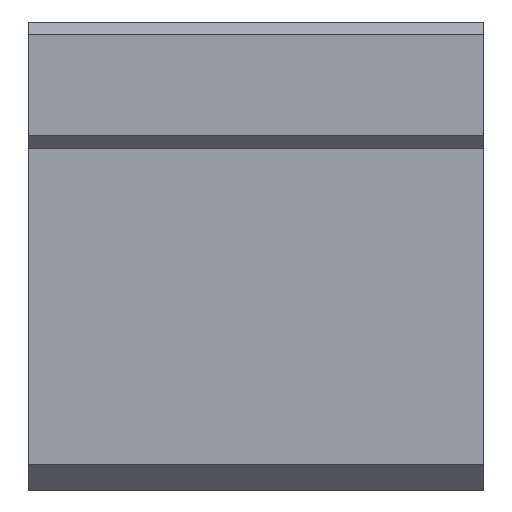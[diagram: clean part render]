
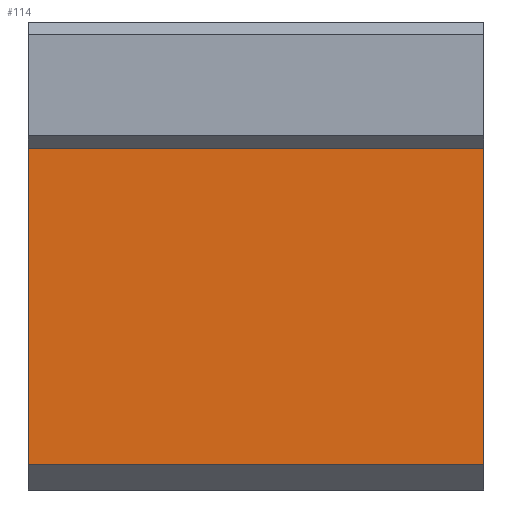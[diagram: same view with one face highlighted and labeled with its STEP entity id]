
A CAD part, front view. The second image highlights one B-rep face of the part: STEP entity #114.
In plain terms, the highlighted planar face has unit normal (0, -1, 0).
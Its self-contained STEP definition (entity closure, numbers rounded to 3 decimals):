
#51=CARTESIAN_POINT('',(0.0,-29.,11.5));
#52=VERTEX_POINT('',#51);
#59=CARTESIAN_POINT('',(36.0,-29.,11.5));
#60=VERTEX_POINT('',#59);
#61=CARTESIAN_POINT('',(0.0,-29.,11.5));
#62=DIRECTION('',(1.0,0.0,0.0));
#63=VECTOR('',#62,36.0);
#64=LINE('',#61,#63);
#65=EDGE_CURVE('',#52,#60,#64,.T.);
#84=CARTESIAN_POINT('',(0.0,-29.,-15.5));
#85=DIRECTION('',(0.0,-1.0,0.0));
#86=DIRECTION('',(0.0,0.0,-1.0));
#87=AXIS2_PLACEMENT_3D('',#84,#85,#86);
#88=PLANE('',#87);
#89=ORIENTED_EDGE('',*,*,#65,.F.);
#90=CARTESIAN_POINT('',(0.0,-29.,-13.5));
#91=VERTEX_POINT('',#90);
#92=CARTESIAN_POINT('',(0.0,-29.,11.5));
#93=DIRECTION('',(0.0,0.0,-1.0));
#94=VECTOR('',#93,25.);
#95=LINE('',#92,#94);
#96=EDGE_CURVE('',#52,#91,#95,.T.);
#97=ORIENTED_EDGE('',*,*,#96,.T.);
#98=CARTESIAN_POINT('',(36.0,-29.,-13.5));
#99=VERTEX_POINT('',#98);
#100=CARTESIAN_POINT('',(36.0,-29.,-13.5));
#101=DIRECTION('',(-1.0,0.0,0.0));
#102=VECTOR('',#101,36.0);
#103=LINE('',#100,#102);
#104=EDGE_CURVE('',#99,#91,#103,.T.);
#105=ORIENTED_EDGE('',*,*,#104,.F.);
#106=CARTESIAN_POINT('',(36.0,-29.,-13.5));
#107=DIRECTION('',(0.0,0.0,1.0));
#108=VECTOR('',#107,25.);
#109=LINE('',#106,#108);
#110=EDGE_CURVE('',#99,#60,#109,.T.);
#111=ORIENTED_EDGE('',*,*,#110,.T.);
#112=EDGE_LOOP('',(#89,#97,#105,#111));
#113=FACE_OUTER_BOUND('',#112,.T.);
#114=ADVANCED_FACE('',(#113),#88,.T.);
